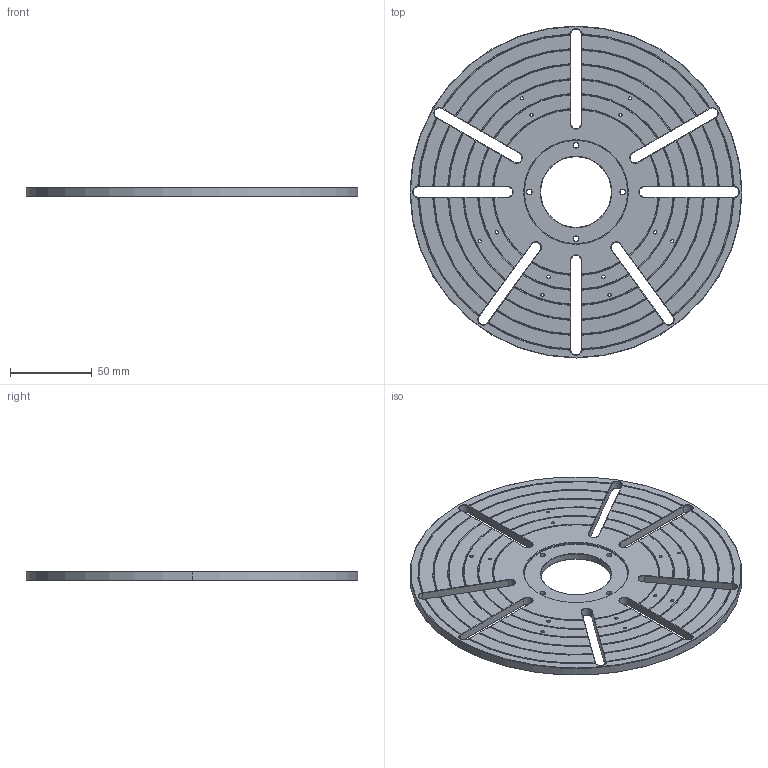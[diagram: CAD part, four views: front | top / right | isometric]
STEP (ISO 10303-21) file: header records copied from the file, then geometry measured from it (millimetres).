
FILE_DESCRIPTION (( 'STEP AP203' ), '1' );
FILE_NAME ('1014971.STEP', '2020-01-31T16:39:20', ( '' ), ( '' ), 'SwSTEP 2.0', 'SolidWorks 2019', '' );
FILE_SCHEMA (( 'CONFIG_CONTROL_DESIGN' ));
Length unit declared in the file: inch
Products named in the file (1): 1014971
Bounding box: 203.2 x 203.2 x 5.49 mm (x, y, z)
Volume: 149975 mm3; surface area: 67056.7 mm2
Topology: 1 solids, 1 shells, 432 faces, 1242 edges, 806 vertices
Faces by surface type: plane 172, cone 150, cylinder 60, torus 50
Entity records: 14825 total; most frequent: CARTESIAN_POINT 4161, ORIENTED_EDGE 2484, DIRECTION 1988, EDGE_CURVE 1242, AXIS2_PLACEMENT_3D 809, VERTEX_POINT 806, EDGE_LOOP 476, ADVANCED_FACE 432
